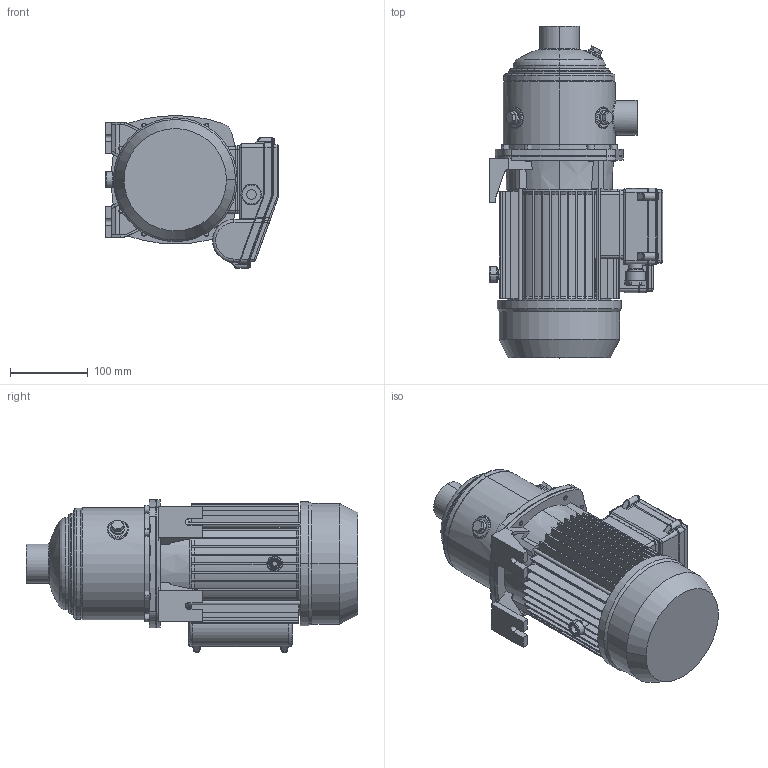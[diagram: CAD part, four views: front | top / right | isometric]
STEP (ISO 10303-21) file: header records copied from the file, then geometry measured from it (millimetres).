
FILE_DESCRIPTION((''),'2;1');
FILE_NAME('MATRIX_10-2T6_1_5_M_ASM','2017-10-10T',('shehi'),('"Ebara Pumps Europe +39.444.706811"'),'PRO/ENGINEER BY PARAMETRIC TECHNOLOGY CORPORATION, 2014200','PRO/ENGINEER BY PARAMETRIC TECHNOLOGY CORPORATION, 2014200','');
FILE_SCHEMA(('AUTOMOTIVE_DESIGN { 1 0 10303 214 1 1 1 1 }'));
Length unit declared in the file: millimetre
Products named in the file (7): CORPO_POMPA_MATRIX_10-2_3_20; SUPPORTO_MATRIX_MEC_80_18; MEC_80_PACCO110_120_MONOFASE; PRT0034; 72229_3; MATRIX_10-2T6_1_5_M_ASM_82_ASM; MATRIX_10-2T6_1_5_M_ASM
Assembly tree (6 placements, depth 3):
  MATRIX_10-2T6_1_5_M_ASM
    MATRIX_10-2T6_1_5_M_ASM_82_ASM
      CORPO_POMPA_MATRIX_10-2_3_20
      SUPPORTO_MATRIX_MEC_80_18
      MEC_80_PACCO110_120_MONOFASE
      PRT0034
      72229_3
Bounding box: 223 x 426.8 x 196.5 mm (x, y, z)
Volume: 5531020.9 mm3; surface area: 603520 mm2
Topology: 5 solids, 5 shells, 960 faces, 2428 edges, 1521 vertices
Faces by surface type: plane 427, cylinder 303, cone 108, torus 62, bspline 56, sphere 4
Entity records: 43086 total; most frequent: CARTESIAN_POINT 9435, DIRECTION 4924, ORIENTED_EDGE 4848, PRESENTATION_STYLE_ASSIGNMENT 2759, STYLED_ITEM 2759, CURVE_STYLE 2424, EDGE_CURVE 2424, AXIS2_PLACEMENT_3D 1921
